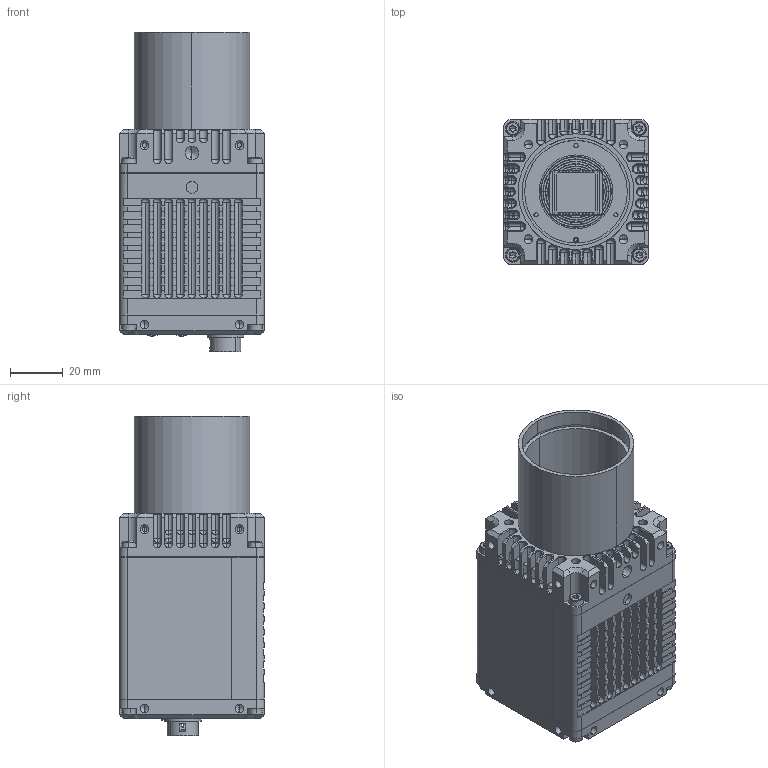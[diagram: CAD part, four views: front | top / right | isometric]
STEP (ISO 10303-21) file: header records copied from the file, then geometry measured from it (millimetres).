
FILE_DESCRIPTION (( 'STEP AP214' ), '1' );
FILE_NAME ('4068083_Goldeye G-008 SWIR TEC1 M42-Mount.STEP', '2023-07-28T09:59:52', ( '' ), ( '' ), 'SwSTEP 2.0', 'SolidWorks 2021', '' );
FILE_SCHEMA (( 'AUTOMOTIVE_DESIGN' ));
Length unit declared in the file: millimetre
Products named in the file (1): 4068083_Goldeye G-008 SWIR TEC1 M42-Mount
Bounding box: 55.01 x 55 x 121.1 mm (x, y, z)
Surface area: 83781.5 mm2 (no closed solid volume)
Topology: 0 solids, 51 shells, 3740 faces, 10029 edges, 6318 vertices
Faces by surface type: plane 1757, cylinder 1191, bspline 405, cone 232, sphere 100, torus 55
Entity records: 169126 total; most frequent: CARTESIAN_POINT 36551, ORIENTED_EDGE 19642, DIRECTION 17837, EDGE_CURVE 9821, VERTEX_POINT 6304, VECTOR 6273, LINE 6273, AXIS2_PLACEMENT_3D 5782
